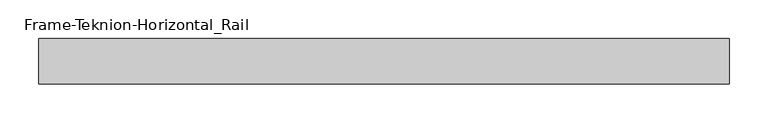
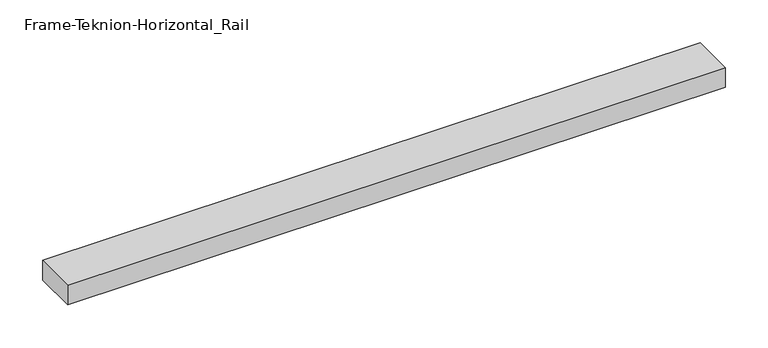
"""IFC4 building model written with IfcOpenShell, lengths in millimetres: proxy geometry, Frame-Teknion-Horizontal_Rail : FPKK."""

from ifc_helpers import new_model, si_unit, frame, origin, place, context, project, spatial, polyline, outline, extrude, source, transform, mapped, element, save


def frame_teknion_horizontal_rail_149fd3e6(model_context):
    return source(origin(), model_context, "Body", "SweptSolid", [
        extrude(outline(polyline([(-443.2101562, 29.2199219), (443.2101563, 29.2199219), (443.2101563, -29.2199219), (-443.2101562, -29.2199219), (-443.2101562, 29.2199219)])), frame((0.0, 0.0, -13.9898438), z_axis=(0.0, 0.0, 1.0), x_axis=(1.0, 0.0, 0.0)), (0.0, 0.0, 1.0), 27.9796875),
    ])


if __name__ == "__main__":
    model = new_model("IFC4")
    model_context = context("Model", 3, world=origin())
    ifc_project = project(units=[si_unit("LENGTHUNIT", "METRE", prefix="MILLI")], contexts=[model_context])
    site = spatial("IfcSite", under=ifc_project)
    building = spatial("IfcBuilding", under=site)
    placement = place(None, origin())
    frame_teknion_horizontal_rail_shape = frame_teknion_horizontal_rail_149fd3e6(model_context)
    element("IfcBuildingElementProxy", 1, Name="Frame-Teknion-Horizontal_Rail : FPKK", ObjectType="Frame-Teknion-Horizontal_Rail : FPKK", at=placement, inside=building, context=model_context, shape_type="MappedRepresentation", body=[
        mapped(frame_teknion_horizontal_rail_shape, transform((0.0, 0.0, 0.0), x_axis=(1.0, 0.0, 0.0), y_axis=(0.0, 1.0, 0.0), z_axis=(0.0, 0.0, 1.0))),
    ])
    save(model, "model.ifc")
